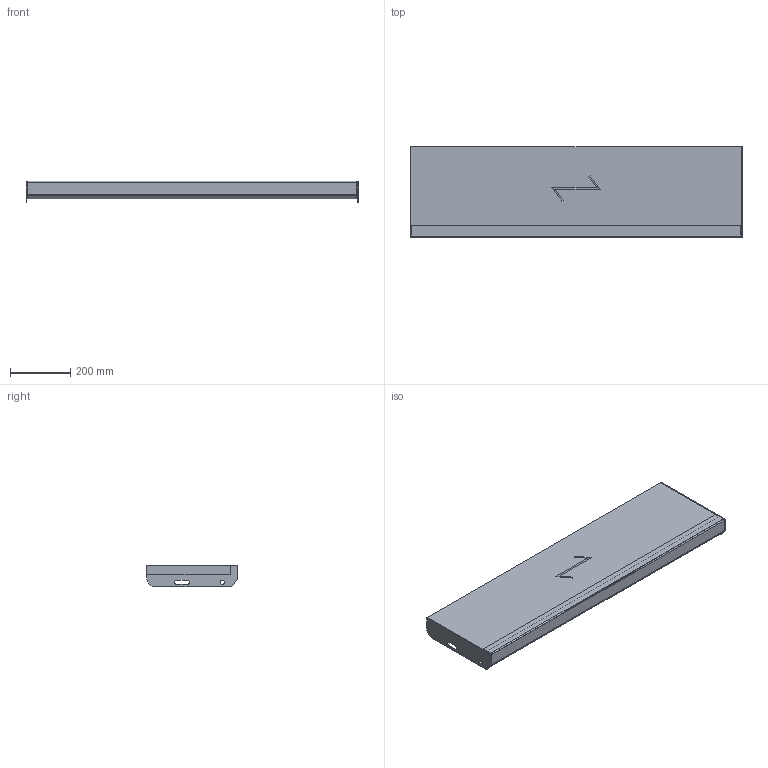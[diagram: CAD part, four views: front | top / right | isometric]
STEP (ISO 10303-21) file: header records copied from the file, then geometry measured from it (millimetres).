
FILE_DESCRIPTION (( 'STEP AP203' ), '1' );
FILE_NAME ('StegTH6-S-nya_steget-1100x300.STEP', '2020-03-04T07:45:17', ( '' ), ( '' ), 'SwSTEP 2.0', 'SolidWorks 2019', '' );
FILE_SCHEMA (( 'CONFIG_CONTROL_DESIGN' ));
Length unit declared in the file: millimetre
Products named in the file (5): SW0000038703; StegTH6-S-nya_steget-1100x300; SW0000039247; SW0000039007; SW0000039565
Assembly tree (5 placements, depth 3):
  StegTH6-S-nya_steget-1100x300
    SW0000039565
      SW0000039007
      SW0000039247
      SW0000038703  x2
Bounding box: 1100 x 300 x 72 mm (x, y, z)
Volume: 9424203.8 mm3; surface area: 992012.2 mm2
Topology: 4 solids, 4 shells, 67 faces, 158 edges, 100 vertices
Faces by surface type: plane 51, cylinder 16
Entity records: 2002 total; most frequent: DIRECTION 261, CARTESIAN_POINT 254, ORIENTED_EDGE 238, EDGE_CURVE 119, VECTOR 99, LINE 99, AXIS2_PLACEMENT_3D 81, VERTEX_POINT 74
